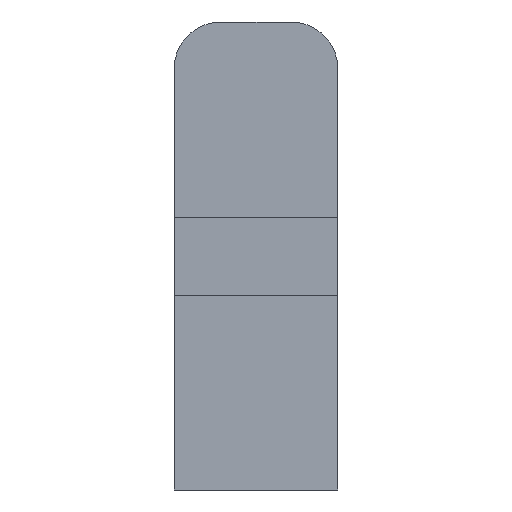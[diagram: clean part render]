
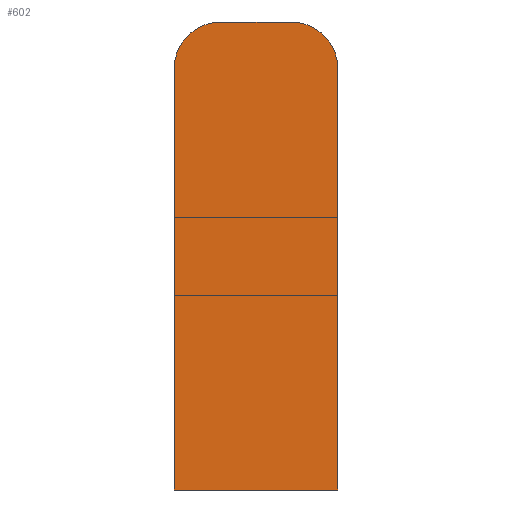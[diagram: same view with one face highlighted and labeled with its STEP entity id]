
A CAD part, front view. The second image highlights one B-rep face of the part: STEP entity #602.
In plain terms, the highlighted planar face has unit normal (0, -1, 0).
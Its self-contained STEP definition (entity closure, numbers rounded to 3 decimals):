
#13 = VERTEX_POINT ( 'NONE', #35 ) ;
#20 = VERTEX_POINT ( 'NONE', #39 ) ;
#25 = VERTEX_POINT ( 'NONE', #41 ) ;
#27 = VERTEX_POINT ( 'NONE', #43 ) ;
#28 = VERTEX_POINT ( 'NONE', #44 ) ;
#35 = CARTESIAN_POINT ( 'NONE',  ( 5.25, 0., 10.5 ) ) ;
#39 = CARTESIAN_POINT ( 'NONE',  ( 2.25, 0., 13.5 ) ) ;
#41 = CARTESIAN_POINT ( 'NONE',  ( -5.25, 0., -16.5 ) ) ;
#43 = CARTESIAN_POINT ( 'NONE',  ( -5.25, 0., 10.5 ) ) ;
#44 = CARTESIAN_POINT ( 'NONE',  ( -2.25, 0., 13.5 ) ) ;
#47 = CARTESIAN_POINT ( 'NONE',  ( 5.25, 0., -16.5 ) ) ;
#72 = CARTESIAN_POINT ( 'NONE',  ( 5.25, 0., -16.5 ) ) ;
#75 = CARTESIAN_POINT ( 'NONE',  ( -2.25, 0., 10.5 ) ) ;
#76 = DIRECTION ( 'NONE',  ( 0., -1., 0. ) ) ;
#77 = DIRECTION ( 'NONE',  ( -1., 0., 0. ) ) ;
#78 = DIRECTION ( 'NONE',  ( 0., 0., 1. ) ) ;
#79 = CARTESIAN_POINT ( 'NONE',  ( 5.25, 0., -16.5 ) ) ;
#80 = DIRECTION ( 'NONE',  ( 1., 0., 0. ) ) ;
#83 = CARTESIAN_POINT ( 'NONE',  ( 2.25, 0., 10.5 ) ) ;
#84 = DIRECTION ( 'NONE',  ( 0., -1., 0. ) ) ;
#85 = DIRECTION ( 'NONE',  ( -1., 0., 0. ) ) ;
#98 = VERTEX_POINT ( 'NONE', #47 ) ;
#142 = CARTESIAN_POINT ( 'NONE',  ( -5.25, 0., -16.5 ) ) ;
#143 = DIRECTION ( 'NONE',  ( 0., 0., -1. ) ) ;
#168 = CARTESIAN_POINT ( 'NONE',  ( 2.25, 0., 13.5 ) ) ;
#169 = DIRECTION ( 'NONE',  ( -1., 0., 0. ) ) ;
#230 = CARTESIAN_POINT ( 'NONE',  ( 0., 0., -1.5 ) ) ;
#231 = PLANE ( 'NONE',  #269 ) ;
#233 = DIRECTION ( 'NONE',  ( 0., 1., 0. ) ) ;
#234 = DIRECTION ( 'NONE',  ( -1., 0., 0. ) ) ;
#267 = AXIS2_PLACEMENT_3D ( 'NONE', #75, #76, #77 ) ;
#269 = AXIS2_PLACEMENT_3D ( 'NONE', #230, #233, #234 ) ;
#274 = EDGE_CURVE ( 'NONE', #28, #27, #449, .T. ) ;
#275 = EDGE_CURVE ( 'NONE', #98, #13, #448, .T. ) ;
#279 = EDGE_CURVE ( 'NONE', #25, #98, #460, .T. ) ;
#283 = EDGE_CURVE ( 'NONE', #13, #20, #464, .T. ) ;
#308 = AXIS2_PLACEMENT_3D ( 'NONE', #83, #84, #85 ) ;
#330 = EDGE_CURVE ( 'NONE', #27, #25, #516, .T. ) ;
#348 = EDGE_CURVE ( 'NONE', #20, #28, #373, .T. ) ;
#373 = LINE ( 'NONE', #168, #548 ) ;
#426 = ORIENTED_EDGE ( 'NONE', *, *, #275, .T. ) ;
#448 = LINE ( 'NONE', #72, #453 ) ;
#449 = CIRCLE ( 'NONE', #267, 3. ) ;
#453 = VECTOR ( 'NONE', #78, 1000. ) ;
#459 = VECTOR ( 'NONE', #80, 1000. ) ;
#460 = LINE ( 'NONE', #79, #459 ) ;
#464 = CIRCLE ( 'NONE', #308, 3. ) ;
#469 = FACE_OUTER_BOUND ( 'NONE', #566, .T. ) ;
#516 = LINE ( 'NONE', #142, #561 ) ;
#541 = ORIENTED_EDGE ( 'NONE', *, *, #279, .T. ) ;
#544 = ORIENTED_EDGE ( 'NONE', *, *, #348, .T. ) ;
#545 = ORIENTED_EDGE ( 'NONE', *, *, #274, .T. ) ;
#546 = ORIENTED_EDGE ( 'NONE', *, *, #330, .T. ) ;
#548 = VECTOR ( 'NONE', #169, 1000. ) ;
#561 = VECTOR ( 'NONE', #143, 1000. ) ;
#566 = EDGE_LOOP ( 'NONE', ( #426, #580, #544, #545, #546, #541 ) ) ;
#580 = ORIENTED_EDGE ( 'NONE', *, *, #283, .T. ) ;
#602 = ADVANCED_FACE ( 'NONE', ( #469 ), #231, .F. ) ;
